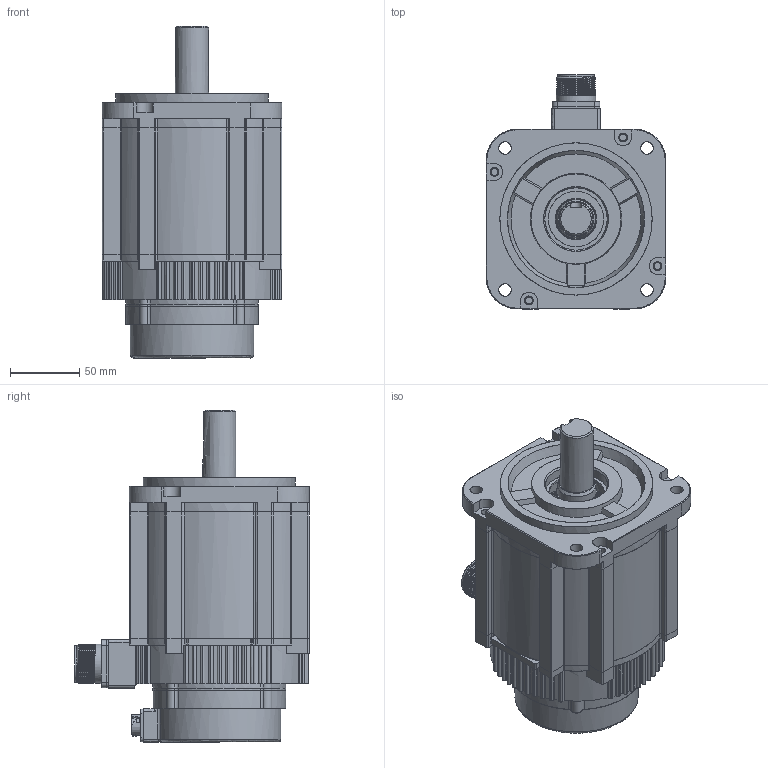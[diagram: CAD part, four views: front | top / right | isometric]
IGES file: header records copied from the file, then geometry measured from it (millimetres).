
Global section: file name: SMP-H180; native system: Autodesk Inventor 2019; preprocessor: unknown; author: 11755; date: 20210726.180840; units: millimetre
Bounding box: 130 x 169.4 x 239.9 mm (x, y, z)
Surface area: 183593.2 mm2 (no closed solid volume)
Topology: 0 solids, 0 shells, 734 faces, 6006 edges, 6002 vertices
Faces by surface type: revolution 461, bspline 273
